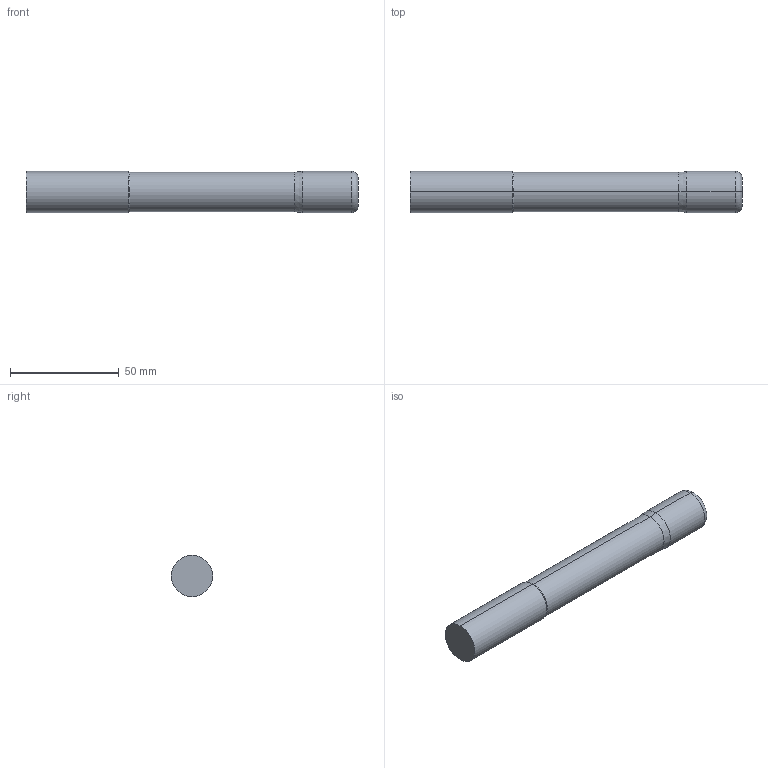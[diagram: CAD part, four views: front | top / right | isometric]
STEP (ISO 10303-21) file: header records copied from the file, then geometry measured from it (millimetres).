
FILE_DESCRIPTION (( 'STEP AP214' ), '1' );
FILE_NAME ('SSIRNX50750-120.STEP', '2025-05-28T19:58:59', ( '' ), ( '' ), 'SwSTEP 2.0', 'SolidWorks 2023', '' );
FILE_SCHEMA (( 'AUTOMOTIVE_DESIGN' ));
Length unit declared in the file: inch
Products named in the file (3): SSI5 Imperial SHANK ONLY_SSIRNX50750-120; SSI5 Imperial LOC ONLY_SSIRNX50750-120; SSIRNX50750-120
Assembly tree (2 placements, depth 2):
  SSIRNX50750-120
    SSI5 Imperial LOC ONLY_SSIRNX50750-120
    SSI5 Imperial SHANK ONLY_SSIRNX50750-120
Bounding box: 152.4 x 19.05 x 19.05 mm (x, y, z)
Volume: 41301 mm3; surface area: 9969.2 mm2
Topology: 2 solids, 2 shells, 16 faces, 28 edges, 16 vertices
Faces by surface type: cylinder 6, plane 4, cone 4, torus 2
Entity records: 562 total; most frequent: DIRECTION 88, CARTESIAN_POINT 65, ORIENTED_EDGE 56, AXIS2_PLACEMENT_3D 39, EDGE_CURVE 28, CIRCLE 18, FACE_OUTER_BOUND 16, EDGE_LOOP 16
